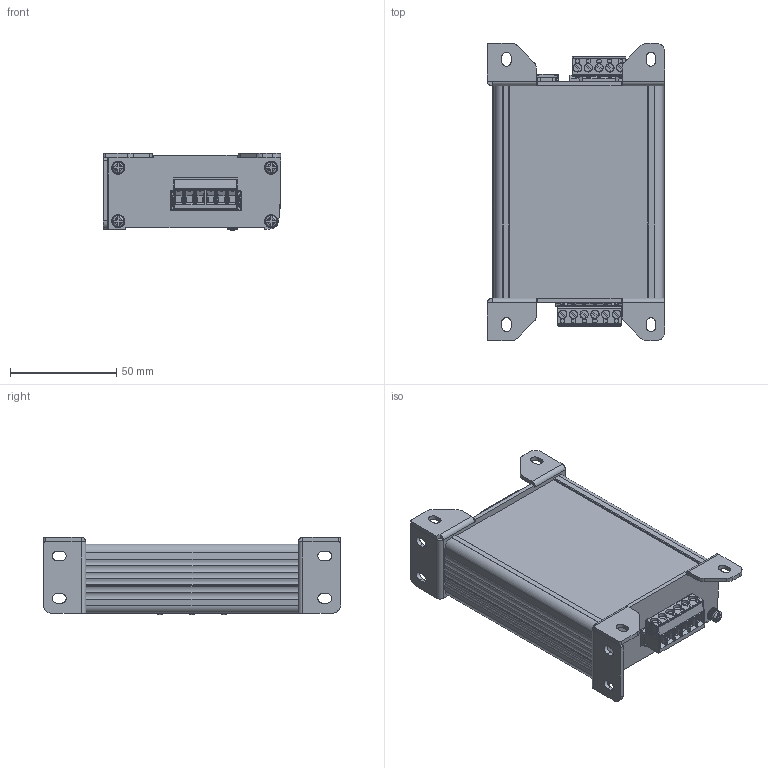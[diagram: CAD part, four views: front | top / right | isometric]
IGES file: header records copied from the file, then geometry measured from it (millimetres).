
Global section: file name: 3D-BSMS; native system: Autodesk Inventor 2021; preprocessor: unknown; author: eunsol jang; date: 20240416.104331; units: inch
Bounding box: 83.51 x 140 x 36.5 mm (x, y, z)
Volume: 83160.9 mm3; surface area: 100160.7 mm2
Topology: 10 solids, 10 shells, 3880 faces, 11895 edges, 8171 vertices
Faces by surface type: bspline 3842, revolution 38
